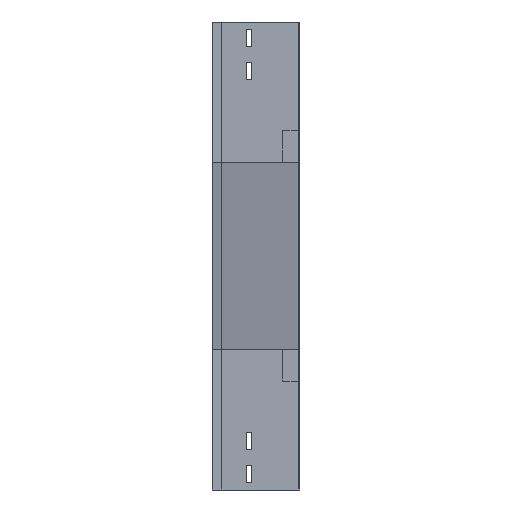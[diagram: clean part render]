
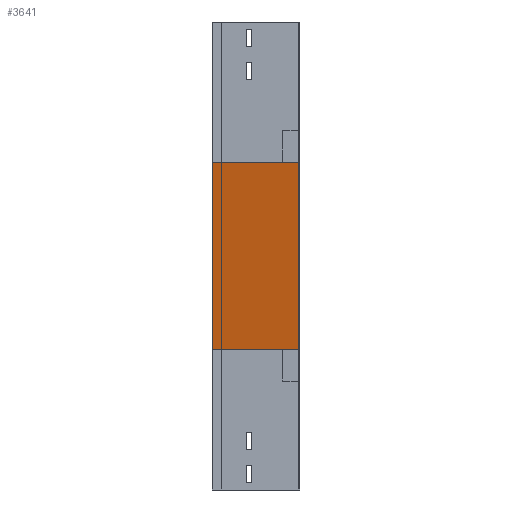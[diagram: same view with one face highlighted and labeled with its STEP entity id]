
A CAD part, left-side view. The second image highlights one B-rep face of the part: STEP entity #3641.
In plain terms, the highlighted planar face has unit normal (-0.979, 0, -0.204).
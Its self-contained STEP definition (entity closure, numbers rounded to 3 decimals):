
#55 = LINE ( 'NONE', #983, #3616 ) ;
#106 = EDGE_CURVE ( 'NONE', #2032, #3241, #1768, .T. ) ;
#156 = VECTOR ( 'NONE', #3588, 1000. ) ;
#199 = DIRECTION ( 'NONE',  ( 0.979, 0., 0.204 ) ) ;
#223 = VECTOR ( 'NONE', #2944, 1000. ) ;
#248 = DIRECTION ( 'NONE',  ( 0., -1., 0. ) ) ;
#358 = DIRECTION ( 'NONE',  ( 0.204, 0., -0.979 ) ) ;
#485 = CARTESIAN_POINT ( 'NONE',  ( 0., 0., -180. ) ) ;
#983 = CARTESIAN_POINT ( 'NONE',  ( 0., 0., -180. ) ) ;
#1113 = CARTESIAN_POINT ( 'NONE',  ( 0., 112.5, -180. ) ) ;
#1122 = AXIS2_PLACEMENT_3D ( 'NONE', #485, #199, #1682 ) ;
#1412 = VECTOR ( 'NONE', #248, 1000. ) ;
#1453 = CARTESIAN_POINT ( 'NONE',  ( 50., 0., -420. ) ) ;
#1553 = EDGE_LOOP ( 'NONE', ( #2130, #2615, #3324, #1617 ) ) ;
#1567 = PLANE ( 'NONE',  #1122 ) ;
#1575 = CARTESIAN_POINT ( 'NONE',  ( 50., 112.5, -420. ) ) ;
#1617 = ORIENTED_EDGE ( 'NONE', *, *, #3385, .F. ) ;
#1682 = DIRECTION ( 'NONE',  ( 0.204, 0., -0.979 ) ) ;
#1768 = LINE ( 'NONE', #2357, #1412 ) ;
#1952 = LINE ( 'NONE', #1453, #156 ) ;
#2032 = VERTEX_POINT ( 'NONE', #2803 ) ;
#2130 = ORIENTED_EDGE ( 'NONE', *, *, #2673, .F. ) ;
#2244 = CARTESIAN_POINT ( 'NONE',  ( 50., 0., -420. ) ) ;
#2357 = CARTESIAN_POINT ( 'NONE',  ( 0., 0., -180. ) ) ;
#2434 = CARTESIAN_POINT ( 'NONE',  ( 0., 0., -180. ) ) ;
#2486 = VERTEX_POINT ( 'NONE', #2244 ) ;
#2593 = FACE_OUTER_BOUND ( 'NONE', #1553, .T. ) ;
#2615 = ORIENTED_EDGE ( 'NONE', *, *, #106, .F. ) ;
#2673 = EDGE_CURVE ( 'NONE', #3241, #2486, #55, .T. ) ;
#2803 = CARTESIAN_POINT ( 'NONE',  ( 0., 112.5, -180. ) ) ;
#2944 = DIRECTION ( 'NONE',  ( 0.204, 0., -0.979 ) ) ;
#2965 = LINE ( 'NONE', #1113, #223 ) ;
#3221 = VERTEX_POINT ( 'NONE', #1575 ) ;
#3241 = VERTEX_POINT ( 'NONE', #2434 ) ;
#3324 = ORIENTED_EDGE ( 'NONE', *, *, #3407, .T. ) ;
#3385 = EDGE_CURVE ( 'NONE', #2486, #3221, #1952, .T. ) ;
#3407 = EDGE_CURVE ( 'NONE', #2032, #3221, #2965, .T. ) ;
#3588 = DIRECTION ( 'NONE',  ( 0., 1., 0. ) ) ;
#3616 = VECTOR ( 'NONE', #358, 1000. ) ;
#3641 = ADVANCED_FACE ( 'NONE', ( #2593 ), #1567, .F. ) ;
